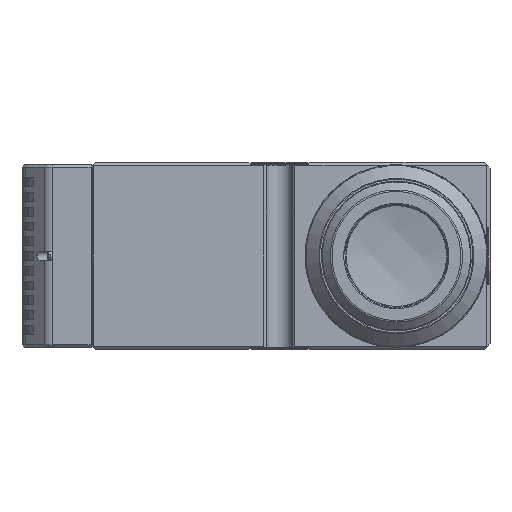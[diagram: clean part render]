
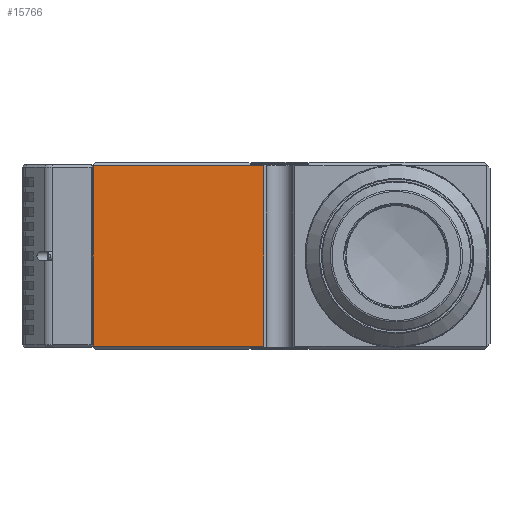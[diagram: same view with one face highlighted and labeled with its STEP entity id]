
A CAD part, front view. The second image highlights one B-rep face of the part: STEP entity #15766.
In plain terms, the highlighted planar face has unit normal (0, -1, 0).
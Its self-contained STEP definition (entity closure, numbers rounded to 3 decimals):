
#257 = DIRECTION ( 'NONE',  ( -1., 0., 0. ) ) ;
#491 = DIRECTION ( 'NONE',  ( 0., -1., 0. ) ) ;
#9174 = DIRECTION ( 'NONE',  ( 0., 0., 1. ) ) ;
#10010 = LINE ( 'NONE', #75386, #69688 ) ;
#11778 = VECTOR ( 'NONE', #257, 1000. ) ;
#15766 = ADVANCED_FACE ( 'NONE', ( #34928 ), #99481, .T. ) ;
#19915 = EDGE_CURVE ( 'NONE', #72568, #55755, #117223, .T. ) ;
#20798 = CARTESIAN_POINT ( 'NONE',  ( 33.965, -45., -38.5 ) ) ;
#26464 = ORIENTED_EDGE ( 'NONE', *, *, #162849, .T. ) ;
#31262 = EDGE_LOOP ( 'NONE', ( #94175, #26464, #52534, #48812 ) ) ;
#31864 = LINE ( 'NONE', #150360, #94788 ) ;
#34928 = FACE_OUTER_BOUND ( 'NONE', #31262, .T. ) ;
#47572 = VERTEX_POINT ( 'NONE', #77891 ) ;
#48812 = ORIENTED_EDGE ( 'NONE', *, *, #117287, .T. ) ;
#52534 = ORIENTED_EDGE ( 'NONE', *, *, #19915, .F. ) ;
#55755 = VERTEX_POINT ( 'NONE', #123789 ) ;
#57538 = DIRECTION ( 'NONE',  ( -1., 0., 0. ) ) ;
#61564 = CARTESIAN_POINT ( 'NONE',  ( 134.808, -45., 38.5 ) ) ;
#63875 = CARTESIAN_POINT ( 'NONE',  ( 33.965, -45., 38.5 ) ) ;
#69688 = VECTOR ( 'NONE', #9174, 1000. ) ;
#72568 = VERTEX_POINT ( 'NONE', #20798 ) ;
#74130 = EDGE_CURVE ( 'NONE', #133271, #47572, #114219, .T. ) ;
#75386 = CARTESIAN_POINT ( 'NONE',  ( 33.965, -45., -40. ) ) ;
#77891 = CARTESIAN_POINT ( 'NONE',  ( -38.935, -45., 38.5 ) ) ;
#94175 = ORIENTED_EDGE ( 'NONE', *, *, #74130, .T. ) ;
#94788 = VECTOR ( 'NONE', #151179, 1000. ) ;
#99481 = PLANE ( 'NONE',  #112995 ) ;
#104464 = VECTOR ( 'NONE', #57538, 1000. ) ;
#107756 = CARTESIAN_POINT ( 'NONE',  ( 134.808, -45., -38.5 ) ) ;
#112995 = AXIS2_PLACEMENT_3D ( 'NONE', #142926, #491, #155496 ) ;
#114219 = LINE ( 'NONE', #61564, #11778 ) ;
#117223 = LINE ( 'NONE', #107756, #104464 ) ;
#117287 = EDGE_CURVE ( 'NONE', #72568, #133271, #10010, .T. ) ;
#123789 = CARTESIAN_POINT ( 'NONE',  ( -38.935, -45., -38.5 ) ) ;
#133271 = VERTEX_POINT ( 'NONE', #63875 ) ;
#142926 = CARTESIAN_POINT ( 'NONE',  ( 130.565, -45., -40. ) ) ;
#150360 = CARTESIAN_POINT ( 'NONE',  ( -38.935, -45., 40. ) ) ;
#151179 = DIRECTION ( 'NONE',  ( 0., 0., -1. ) ) ;
#155496 = DIRECTION ( 'NONE',  ( 1., 0., 0. ) ) ;
#162849 = EDGE_CURVE ( 'NONE', #47572, #55755, #31864, .T. ) ;
